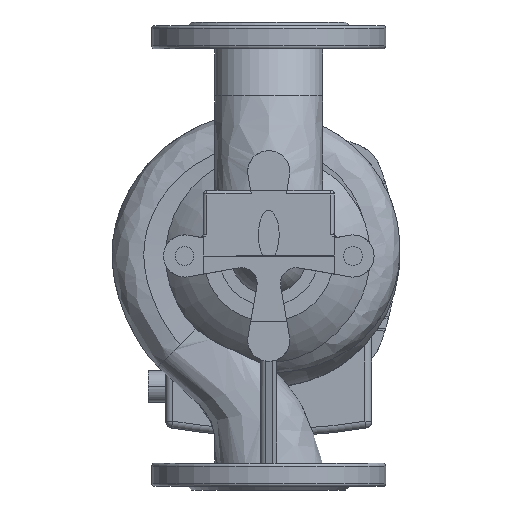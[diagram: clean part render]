
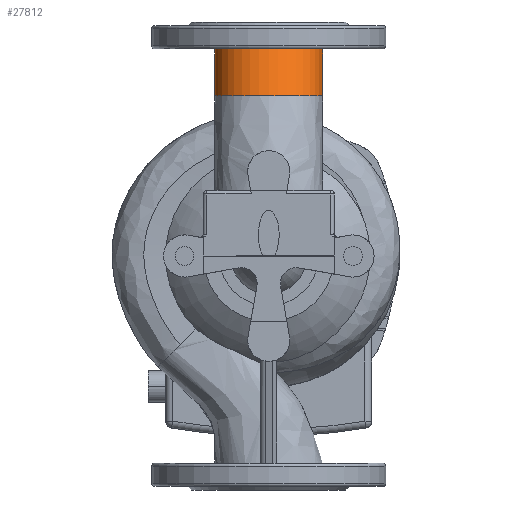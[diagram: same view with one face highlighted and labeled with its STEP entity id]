
A CAD part, front view. The second image highlights one B-rep face of the part: STEP entity #27812.
In plain terms, the highlighted free-form (B-spline) face has degree [3, 1] with [4, 2] control points.
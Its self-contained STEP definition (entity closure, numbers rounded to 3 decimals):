
#457 = AXIS2_PLACEMENT_3D ( 'NONE', #4504, #18392, #32444 ) ;
#627 = VERTEX_POINT ( 'NONE', #34477 ) ;
#1400 = CARTESIAN_POINT ( 'NONE',  ( -46., -23.131, 136.935 ) ) ;
#2298 = EDGE_CURVE ( 'NONE', #627, #18467, #26930, .T. ) ;
#2958 = CARTESIAN_POINT ( 'NONE',  ( -46., 0., 177. ) ) ;
#4504 = CARTESIAN_POINT ( 'NONE',  ( 0., -23.131, 136.935 ) ) ;
#6883 = EDGE_CURVE ( 'NONE', #627, #20160, #34564, .T. ) ;
#9307 = B_SPLINE_CURVE_WITH_KNOTS ( 'NONE', 1,
 ( #1400, #42765 ),
 .UNSPECIFIED., .F., .F.,
 ( 2, 2 ),
 ( 0., 1. ),
 .UNSPECIFIED. ) ;
#10255 = CARTESIAN_POINT ( 'NONE',  ( 46., 0., 177. ) ) ;
#11358 = CARTESIAN_POINT ( 'NONE',  ( -46., -23.131, 136.935 ) ) ;
#12263 = CARTESIAN_POINT ( 'NONE',  ( -46., -92., 177. ) ) ;
#15385 = EDGE_CURVE ( 'NONE', #18467, #20792, #23612, .T. ) ;
#15925 = EDGE_LOOP ( 'NONE', ( #41061, #16319, #17654, #39987 ) ) ;
#16319 = ORIENTED_EDGE ( 'NONE', *, *, #2298, .T. ) ;
#16382 = AXIS2_PLACEMENT_3D ( 'NONE', #44822, #33901, #27337 ) ;
#17137 = CARTESIAN_POINT ( 'NONE',  ( 46., 0., 177. ) ) ;
#17654 = ORIENTED_EDGE ( 'NONE', *, *, #15385, .T. ) ;
#18392 = DIRECTION ( 'NONE',  ( 0., 0., -1. ) ) ;
#18467 = VERTEX_POINT ( 'NONE', #10255 ) ;
#18629 = CARTESIAN_POINT ( 'NONE',  ( 46., -115.131, 136.935 ) ) ;
#20160 = VERTEX_POINT ( 'NONE', #21925 ) ;
#20554 = CARTESIAN_POINT ( 'NONE',  ( 46., -23.131, 136.935 ) ) ;
#20792 = VERTEX_POINT ( 'NONE', #2958 ) ;
#21925 = CARTESIAN_POINT ( 'NONE',  ( -46., -23.131, 136.935 ) ) ;
#22051 = FACE_OUTER_BOUND ( 'NONE', #15925, .T. ) ;
#22914 =( BOUNDED_SURFACE ( )  B_SPLINE_SURFACE ( 3, 1, ( 
 ( #25454, #29520 ),
 ( #18629, #43375 ),
 ( #42475, #12263 ),
 ( #11358, #25220 ) ),
 .UNSPECIFIED., .F., .F., .F. ) 
 B_SPLINE_SURFACE_WITH_KNOTS ( ( 4, 4 ),
 ( 2, 2 ),
 ( 0.5, 1. ),
 ( 0., 1. ),
 .UNSPECIFIED. ) 
 GEOMETRIC_REPRESENTATION_ITEM ( )  RATIONAL_B_SPLINE_SURFACE ( (
 ( 1., 1.),
 ( 0.333, 0.333),
 ( 0.333, 0.333),
 ( 1., 1.) ) ) 
 REPRESENTATION_ITEM ( '' )  SURFACE ( )  );
#23612 = CIRCLE ( 'NONE', #16382, 46. ) ;
#25220 = CARTESIAN_POINT ( 'NONE',  ( -46., 0., 177. ) ) ;
#25454 = CARTESIAN_POINT ( 'NONE',  ( 46., -23.131, 136.935 ) ) ;
#26930 = B_SPLINE_CURVE_WITH_KNOTS ( 'NONE', 1,
 ( #20554, #17137 ),
 .UNSPECIFIED., .F., .F.,
 ( 2, 2 ),
 ( 0., 1. ),
 .UNSPECIFIED. ) ;
#27337 = DIRECTION ( 'NONE',  ( -1., 0., 0. ) ) ;
#27812 = ADVANCED_FACE ( 'NONE', ( #22051 ), #22914, .F. ) ;
#28258 = EDGE_CURVE ( 'NONE', #20160, #20792, #9307, .T. ) ;
#29520 = CARTESIAN_POINT ( 'NONE',  ( 46., 0., 177. ) ) ;
#32444 = DIRECTION ( 'NONE',  ( -1., 0., 0. ) ) ;
#33901 = DIRECTION ( 'NONE',  ( 0., 0., -1. ) ) ;
#34477 = CARTESIAN_POINT ( 'NONE',  ( 46., -23.131, 136.935 ) ) ;
#34564 = CIRCLE ( 'NONE', #457, 46. ) ;
#39987 = ORIENTED_EDGE ( 'NONE', *, *, #28258, .F. ) ;
#41061 = ORIENTED_EDGE ( 'NONE', *, *, #6883, .F. ) ;
#42475 = CARTESIAN_POINT ( 'NONE',  ( -46., -115.131, 136.935 ) ) ;
#42765 = CARTESIAN_POINT ( 'NONE',  ( -46., 0., 177. ) ) ;
#43375 = CARTESIAN_POINT ( 'NONE',  ( 46., -92., 177. ) ) ;
#44822 = CARTESIAN_POINT ( 'NONE',  ( 0., 0., 177. ) ) ;
